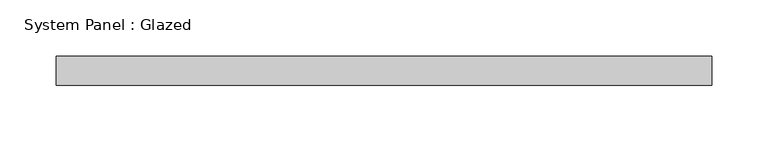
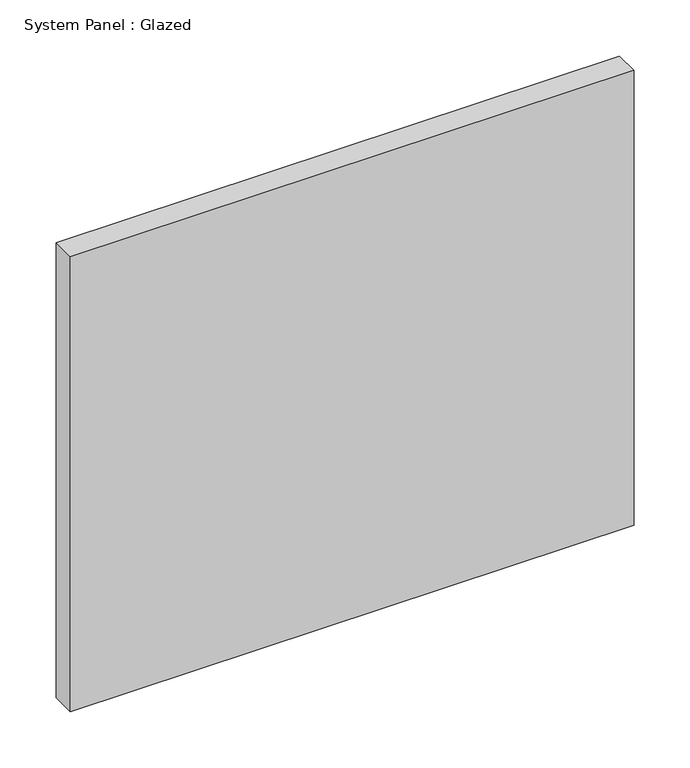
"""IFC4 building model written with IfcOpenShell, lengths in millimetres: plate geometry, System Panel : Glazed."""

from ifc_helpers import new_model, si_unit, origin, origin_with_axes, place, context, project, spatial, polyline, outline, extrude, source, transform, mapped, element, save


def system_panel_glazed_3ac825b3(model_context):
    return source(origin(), model_context, "Body", "SweptSolid", [
        extrude(outline(polyline([(290.2494502, -12.7), (-290.2494502, -12.7), (-290.2494502, 12.7), (290.2494502, 12.7), (290.2494502, -12.7)])), origin_with_axes(), (0.0, 0.0, 1.0), 495.3),
    ])


if __name__ == "__main__":
    model = new_model("IFC4")
    model_context = context("Model", 3, world=origin())
    ifc_project = project(units=[si_unit("LENGTHUNIT", "METRE", prefix="MILLI")], contexts=[model_context])
    site = spatial("IfcSite", under=ifc_project)
    building = spatial("IfcBuilding", under=site)
    placement = place(None, origin())
    system_panel_glazed_shape = system_panel_glazed_3ac825b3(model_context)
    element("IfcPlate", 1, ObjectType="System Panel : Glazed", at=placement, inside=building, context=model_context, shape_type="MappedRepresentation", body=[
        mapped(system_panel_glazed_shape, transform((0.0, 0.0, 0.0), x_axis=(1.0, 0.0, 0.0), y_axis=(0.0, 1.0, 0.0), z_axis=(0.0, 0.0, 1.0))),
    ])
    save(model, "model.ifc")
